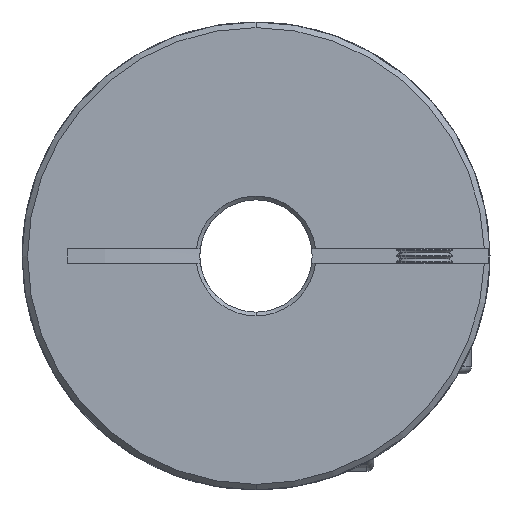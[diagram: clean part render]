
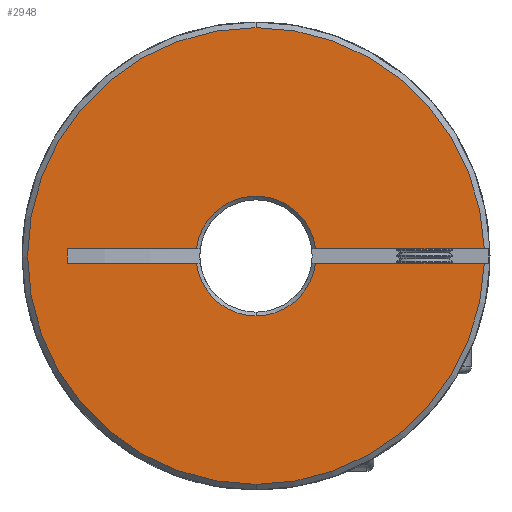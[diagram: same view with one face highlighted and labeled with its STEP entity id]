
A CAD part, front view. The second image highlights one B-rep face of the part: STEP entity #2948.
In plain terms, the highlighted planar face has unit normal (0, -1, 0).
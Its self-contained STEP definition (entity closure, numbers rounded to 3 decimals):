
#27 = CIRCLE ( 'NONE', #1019, 24.4 ) ;
#68 = EDGE_CURVE ( 'NONE', #3584, #2655, #10952, .T. ) ;
#228 = VECTOR ( 'NONE', #17294, 1000. ) ;
#284 = DIRECTION ( 'NONE',  ( 0., 0., 1. ) ) ;
#861 = LINE ( 'NONE', #2327, #228 ) ;
#1019 = AXIS2_PLACEMENT_3D ( 'NONE', #3509, #12961, #4918 ) ;
#1343 = AXIS2_PLACEMENT_3D ( 'NONE', #11831, #15964, #13200 ) ;
#1350 = ORIENTED_EDGE ( 'NONE', *, *, #2888, .T. ) ;
#1634 = ORIENTED_EDGE ( 'NONE', *, *, #13422, .T. ) ;
#1736 = CARTESIAN_POINT ( 'NONE',  ( 24.388, 0., -0.75 ) ) ;
#2047 = CARTESIAN_POINT ( 'NONE',  ( -50., 0., 32.858 ) ) ;
#2112 = AXIS2_PLACEMENT_3D ( 'NONE', #7325, #5965, #16776 ) ;
#2327 = CARTESIAN_POINT ( 'NONE',  ( -50., 0., 0.75 ) ) ;
#2471 = EDGE_CURVE ( 'NONE', #13273, #3584, #6001, .T. ) ;
#2655 = VERTEX_POINT ( 'NONE', #15806 ) ;
#2686 = CARTESIAN_POINT ( 'NONE',  ( -20.149, 0., 0.75 ) ) ;
#2751 = EDGE_CURVE ( 'NONE', #3911, #13501, #11184, .T. ) ;
#2865 = CARTESIAN_POINT ( 'NONE',  ( 0., 0., 0. ) ) ;
#2888 = EDGE_CURVE ( 'NONE', #4326, #10981, #10138, .T. ) ;
#2906 = CIRCLE ( 'NONE', #15335, 24.4 ) ;
#2948 = ADVANCED_FACE ( 'NONE', ( #15194 ), #3389, .F. ) ;
#2989 = EDGE_CURVE ( 'NONE', #11142, #13424, #27, .T. ) ;
#3223 = AXIS2_PLACEMENT_3D ( 'NONE', #2865, #12302, #6724 ) ;
#3389 = PLANE ( 'NONE',  #17048 ) ;
#3469 = AXIS2_PLACEMENT_3D ( 'NONE', #13670, #4511, #15318 ) ;
#3509 = CARTESIAN_POINT ( 'NONE',  ( 0., 0., 0. ) ) ;
#3584 = VERTEX_POINT ( 'NONE', #2686 ) ;
#3719 = ORIENTED_EDGE ( 'NONE', *, *, #15654, .T. ) ;
#3911 = VERTEX_POINT ( 'NONE', #4721 ) ;
#4095 = DIRECTION ( 'NONE',  ( 1., 0., 0. ) ) ;
#4326 = VERTEX_POINT ( 'NONE', #8159 ) ;
#4364 = ORIENTED_EDGE ( 'NONE', *, *, #14740, .T. ) ;
#4511 = DIRECTION ( 'NONE',  ( 0., 1., 0. ) ) ;
#4721 = CARTESIAN_POINT ( 'NONE',  ( 6.356, 0., -0.75 ) ) ;
#4918 = DIRECTION ( 'NONE',  ( 0., 0., 1. ) ) ;
#5054 = ORIENTED_EDGE ( 'NONE', *, *, #2989, .T. ) ;
#5965 = DIRECTION ( 'NONE',  ( 0., 1., 0. ) ) ;
#6001 = LINE ( 'NONE', #12361, #7870 ) ;
#6004 = CARTESIAN_POINT ( 'NONE',  ( -50., 0., 0.75 ) ) ;
#6200 = DIRECTION ( 'NONE',  ( 0., 0., 1. ) ) ;
#6504 = CARTESIAN_POINT ( 'NONE',  ( 24.388, 0., 0.75 ) ) ;
#6724 = DIRECTION ( 'NONE',  ( 0., 0., 1. ) ) ;
#6763 = VERTEX_POINT ( 'NONE', #15168 ) ;
#7325 = CARTESIAN_POINT ( 'NONE',  ( 0., 0., 0. ) ) ;
#7385 = DIRECTION ( 'NONE',  ( 0., 1., 0. ) ) ;
#7564 = VECTOR ( 'NONE', #13929, 1000. ) ;
#7668 = ORIENTED_EDGE ( 'NONE', *, *, #2471, .T. ) ;
#7870 = VECTOR ( 'NONE', #284, 1000. ) ;
#7935 = DIRECTION ( 'NONE',  ( 0., 0., 1. ) ) ;
#7967 = ORIENTED_EDGE ( 'NONE', *, *, #8767, .T. ) ;
#8109 = CARTESIAN_POINT ( 'NONE',  ( 0., 0., 0. ) ) ;
#8159 = CARTESIAN_POINT ( 'NONE',  ( 0., 0., -6.4 ) ) ;
#8767 = EDGE_CURVE ( 'NONE', #13424, #6763, #2906, .T. ) ;
#8816 = CARTESIAN_POINT ( 'NONE',  ( -50., 0., -0.75 ) ) ;
#8917 = ORIENTED_EDGE ( 'NONE', *, *, #68, .T. ) ;
#9037 = LINE ( 'NONE', #8816, #7564 ) ;
#9910 = CIRCLE ( 'NONE', #2112, 6.4 ) ;
#10138 = CIRCLE ( 'NONE', #3469, 6.4 ) ;
#10505 = EDGE_CURVE ( 'NONE', #13273, #10981, #9037, .T. ) ;
#10713 = CARTESIAN_POINT ( 'NONE',  ( -50., 0., -0.75 ) ) ;
#10880 = CARTESIAN_POINT ( 'NONE',  ( 0., 0., 24.4 ) ) ;
#10952 = LINE ( 'NONE', #6004, #11168 ) ;
#10981 = VERTEX_POINT ( 'NONE', #11378 ) ;
#11142 = VERTEX_POINT ( 'NONE', #6504 ) ;
#11168 = VECTOR ( 'NONE', #11344, 1000. ) ;
#11184 = LINE ( 'NONE', #10713, #13296 ) ;
#11236 = CARTESIAN_POINT ( 'NONE',  ( 6.356, 0., 0.75 ) ) ;
#11344 = DIRECTION ( 'NONE',  ( 1., 0., 0. ) ) ;
#11377 = CIRCLE ( 'NONE', #1343, 6.4 ) ;
#11378 = CARTESIAN_POINT ( 'NONE',  ( -6.356, 0., -0.75 ) ) ;
#11703 = CARTESIAN_POINT ( 'NONE',  ( -20.149, 0., -0.75 ) ) ;
#11831 = CARTESIAN_POINT ( 'NONE',  ( 0., 0., 0. ) ) ;
#12166 = DIRECTION ( 'NONE',  ( 0., -1., 0. ) ) ;
#12302 = DIRECTION ( 'NONE',  ( 0., -1., 0. ) ) ;
#12361 = CARTESIAN_POINT ( 'NONE',  ( -20.149, 0., -0.75 ) ) ;
#12961 = DIRECTION ( 'NONE',  ( 0., -1., 0. ) ) ;
#13200 = DIRECTION ( 'NONE',  ( 0., 0., 1. ) ) ;
#13273 = VERTEX_POINT ( 'NONE', #11703 ) ;
#13296 = VECTOR ( 'NONE', #4095, 1000. ) ;
#13422 = EDGE_CURVE ( 'NONE', #6763, #13501, #16096, .T. ) ;
#13424 = VERTEX_POINT ( 'NONE', #10880 ) ;
#13501 = VERTEX_POINT ( 'NONE', #1736 ) ;
#13670 = CARTESIAN_POINT ( 'NONE',  ( 0., 0., 0. ) ) ;
#13929 = DIRECTION ( 'NONE',  ( 1., 0., 0. ) ) ;
#14026 = EDGE_LOOP ( 'NONE', ( #17430, #4364, #1350, #17352, #7668, #8917, #3719, #14164, #5054, #7967, #1634 ) ) ;
#14164 = ORIENTED_EDGE ( 'NONE', *, *, #14820, .T. ) ;
#14597 = VERTEX_POINT ( 'NONE', #11236 ) ;
#14740 = EDGE_CURVE ( 'NONE', #3911, #4326, #9910, .T. ) ;
#14820 = EDGE_CURVE ( 'NONE', #14597, #11142, #861, .T. ) ;
#15168 = CARTESIAN_POINT ( 'NONE',  ( 0., 0., -24.4 ) ) ;
#15194 = FACE_OUTER_BOUND ( 'NONE', #14026, .T. ) ;
#15318 = DIRECTION ( 'NONE',  ( 0., 0., 1. ) ) ;
#15335 = AXIS2_PLACEMENT_3D ( 'NONE', #8109, #12166, #7935 ) ;
#15654 = EDGE_CURVE ( 'NONE', #2655, #14597, #11377, .T. ) ;
#15806 = CARTESIAN_POINT ( 'NONE',  ( -6.356, 0., 0.75 ) ) ;
#15964 = DIRECTION ( 'NONE',  ( 0., 1., 0. ) ) ;
#16096 = CIRCLE ( 'NONE', #3223, 24.4 ) ;
#16776 = DIRECTION ( 'NONE',  ( 0., 0., 1. ) ) ;
#17048 = AXIS2_PLACEMENT_3D ( 'NONE', #2047, #7385, #6200 ) ;
#17294 = DIRECTION ( 'NONE',  ( 1., 0., 0. ) ) ;
#17352 = ORIENTED_EDGE ( 'NONE', *, *, #10505, .F. ) ;
#17430 = ORIENTED_EDGE ( 'NONE', *, *, #2751, .F. ) ;
